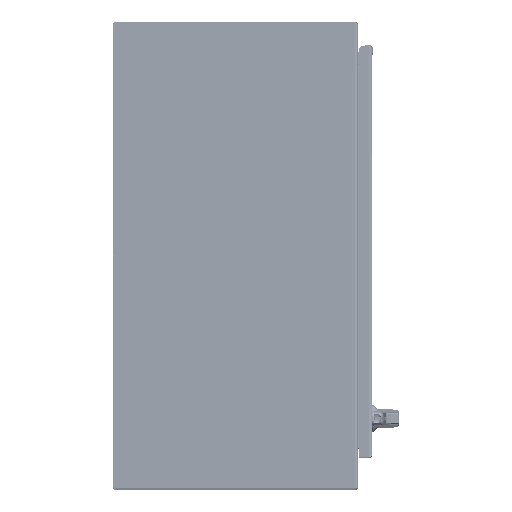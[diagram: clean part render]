
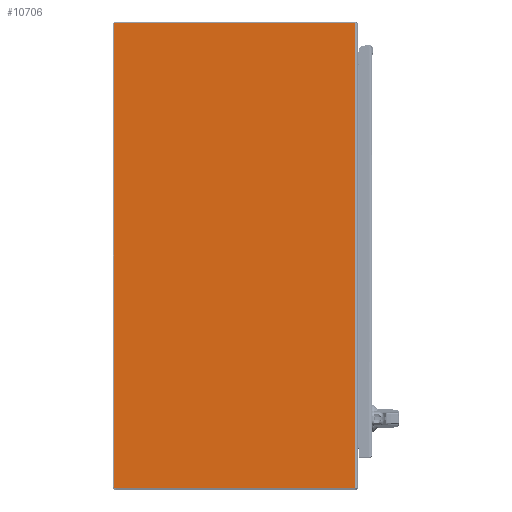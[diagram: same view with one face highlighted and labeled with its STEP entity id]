
A CAD part, top view. The second image highlights one B-rep face of the part: STEP entity #10706.
In plain terms, the highlighted planar face has unit normal (0, 0, 1) as drawn and (0, 1, 0) by its records, which use the part's own axes.
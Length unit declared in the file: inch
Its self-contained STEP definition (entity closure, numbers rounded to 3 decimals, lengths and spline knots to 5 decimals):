
#9917=CARTESIAN_POINT('',(-17.888,0.,-17.013));
#9918=DIRECTION('',(0.,1.,0.));
#9919=DIRECTION('',(0.,0.,-1.));
#9920=AXIS2_PLACEMENT_3D('',#9917,#9918,#9919);
#9925=CARTESIAN_POINT('',(-17.888,0.,17.013));
#9926=DIRECTION('',(0.,1.,0.));
#9927=DIRECTION('',(-1.,0.,0.));
#9928=AXIS2_PLACEMENT_3D('',#9925,#9926,#9927);
#9940=DIRECTION('',(0.,0.,-1.));
#9941=VECTOR('',#9940,34.026);
#9942=CARTESIAN_POINT('',(-17.948,0.,17.013));
#9943=LINE('',#9942,#9941);
#9968=DIRECTION('',(-1.,0.,0.));
#9969=VECTOR('',#9968,17.6415);
#9970=CARTESIAN_POINT('',(-0.2465,0.,17.073));
#9971=LINE('',#9970,#9969);
#10011=DIRECTION('',(0.,0.,1.));
#10012=VECTOR('',#10011,34.146);
#10013=CARTESIAN_POINT('',(-0.2465,0.,-17.073));
#10014=LINE('',#10013,#10012);
#10119=DIRECTION('',(-1.,0.,0.));
#10120=VECTOR('',#10119,17.6415);
#10121=CARTESIAN_POINT('',(-0.2465,0.,-17.073));
#10122=LINE('',#10121,#10120);
#10591=CARTESIAN_POINT('',(-0.2465,0.,17.073));
#10592=VERTEX_POINT('',#10591);
#10593=CARTESIAN_POINT('',(-0.2465,0.,-17.073));
#10594=VERTEX_POINT('',#10593);
#10619=CARTESIAN_POINT('',(-17.888,0.,-17.073));
#10620=CARTESIAN_POINT('',(-17.948,0.,-17.013));
#10621=VERTEX_POINT('',#10619);
#10622=VERTEX_POINT('',#10620);
#10627=CARTESIAN_POINT('',(-17.948,0.,17.013));
#10628=CARTESIAN_POINT('',(-17.888,0.,17.073));
#10629=VERTEX_POINT('',#10627);
#10630=VERTEX_POINT('',#10628);
#10687=CARTESIAN_POINT('',(0.,0.,17.073));
#10688=DIRECTION('',(0.,1.,0.));
#10689=DIRECTION('',(-1.,0.,0.));
#10690=AXIS2_PLACEMENT_3D('',#10687,#10688,#10689);
#10691=PLANE('',#10690);
#10693=ORIENTED_EDGE('',*,*,#10692,.F.);
#10695=ORIENTED_EDGE('',*,*,#10694,.F.);
#10697=ORIENTED_EDGE('',*,*,#10696,.T.);
#10699=ORIENTED_EDGE('',*,*,#10698,.T.);
#10701=ORIENTED_EDGE('',*,*,#10700,.F.);
#10703=ORIENTED_EDGE('',*,*,#10702,.T.);
#10704=EDGE_LOOP('',(#10693,#10695,#10697,#10699,#10701,#10703));
#10705=FACE_OUTER_BOUND('',#10704,.F.);
#9921=CIRCLE('',#9920,0.06);
#9929=CIRCLE('',#9928,0.06);
#10692=EDGE_CURVE('',#10621,#10622,#9921,.T.);
#10694=EDGE_CURVE('',#10594,#10621,#10122,.T.);
#10696=EDGE_CURVE('',#10594,#10592,#10014,.T.);
#10698=EDGE_CURVE('',#10592,#10630,#9971,.T.);
#10700=EDGE_CURVE('',#10629,#10630,#9929,.T.);
#10702=EDGE_CURVE('',#10629,#10622,#9943,.T.);
#10706=ADVANCED_FACE('',(#10705),#10691,.T.);
